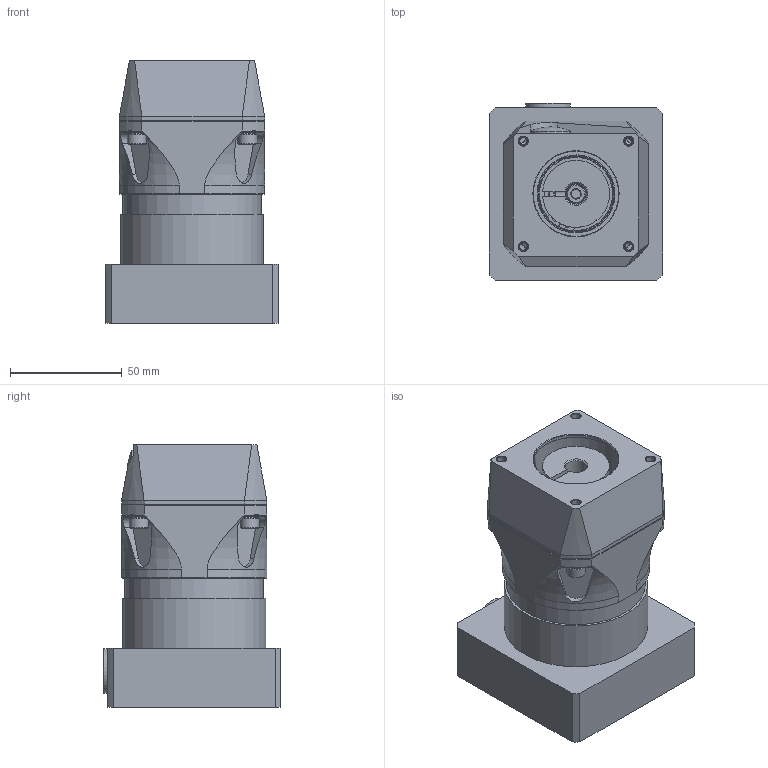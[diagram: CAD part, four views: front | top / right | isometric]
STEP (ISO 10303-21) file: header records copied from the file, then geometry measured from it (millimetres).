
FILE_DESCRIPTION (( 'STEP AP214' ), '1' );
FILE_NAME ('EPL-U-064-M1814-H1073 (14mm).STEP', '2024-10-25T16:05:26', ( '' ), ( '' ), 'SwSTEP 2.0', 'SolidWorks 2020', '' );
FILE_SCHEMA (( 'AUTOMOTIVE_DESIGN' ));
Length unit declared in the file: millimetre
Products named in the file (13): 51040002 14mm Plug; 23030135 EPL-U-064 to Macron 28-12 0.3750in Shaft; EPL-U-064-M1814-H1073 (14mm); H1073_EPL-U-064; EPL-U-064_EPL-U-064-I 14mm; 4505XXXX M5 SHCS_M5 X 20; 077-A01; 55012112 EPL-U-064 to Macron 28-12 Adapter; 4505XXXX M5 SHCS_M5 X 25                                            ; M1814_EPL-064; 47050010 BVL M5 5x9x0.60mm ST; 4505XXXX M5 SHCS_M5 X 16; 51020002 M16 Threaded Plug
Assembly tree (26 placements, depth 3):
  EPL-U-064-M1814-H1073 (14mm)
    EPL-U-064_EPL-U-064-I 14mm
    H1073_EPL-U-064
      55012112 EPL-U-064 to Macron 28-12 Adapter
      4505XXXX M5 SHCS_M5 X 20
      47050010 BVL M5 5x9x0.60mm ST  x5
      4505XXXX M5 SHCS_M5 X 16  x4
      51020002 M16 Threaded Plug
      23030135 EPL-U-064 to Macron 28-12 0.3750in Shaft
    M1814_EPL-064
      077-A01
      51040002 14mm Plug
    4505XXXX M5 SHCS_M5 X 25                                              x4
    47050010 BVL M5 5x9x0.60mm ST  x4
Bounding box: 77.4 x 79.4 x 117.56 mm (x, y, z)
Volume: 305871.8 mm3; surface area: 148474.8 mm2
Topology: 63 solids, 65 shells, 3272 faces, 8935 edges, 5824 vertices
Faces by surface type: cone 1417, bspline 1059, plane 440, cylinder 332, torus 23, sphere 1
Full cylindrical faces by diameter (mm): 2 x4, 2.5 x3, 2.8 x1, 3.3 x12, 3.7 x16, 4 x33, 4.2 x12, 4.45 x8, 4.5 x1, 5 x24, 5.2 x1, 5.49 x4, 5.5 x5, 6 x9, 6.5 x1, 7 x5, 7.5 x4, 8.5 x10, 9 x6, 9.775 x1, 11 x1, 12 x2, 12.5 x1, 14 x4, 14.4 x1, 15.192 x1, 16 x2, 18 x1, 18.36 x1, 20 x2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
Entity records: 43076 total; most frequent: CARTESIAN_POINT 15734, DIRECTION 5153, ORIENTED_EDGE 5086, EDGE_CURVE 2543, AXIS2_PLACEMENT_3D 2284, EDGE_LOOP 1888, VERTEX_POINT 1819, FACE_OUTER_BOUND 1510
